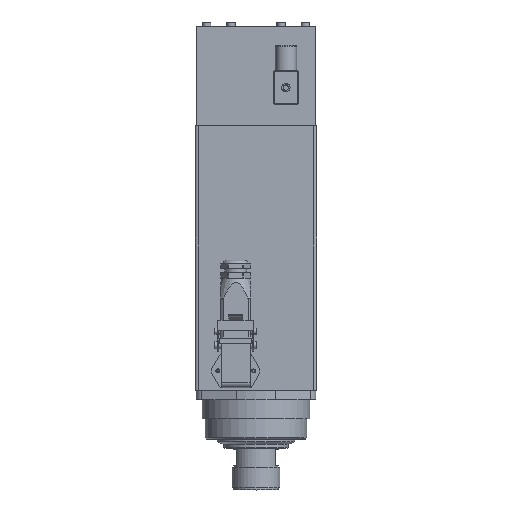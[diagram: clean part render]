
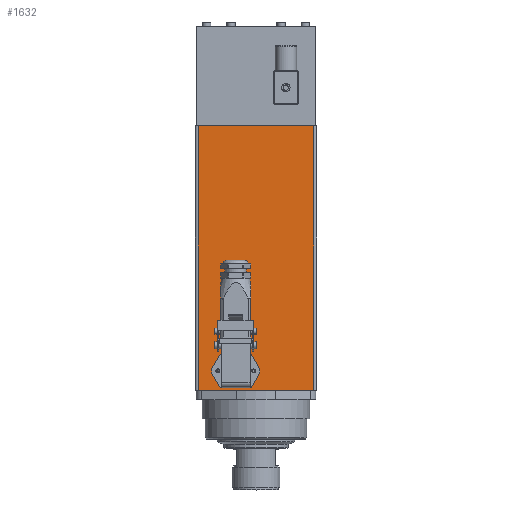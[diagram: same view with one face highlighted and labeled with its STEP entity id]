
A CAD part, top view. The second image highlights one B-rep face of the part: STEP entity #1632.
In plain terms, the highlighted planar face has unit normal (0, 0, 1).
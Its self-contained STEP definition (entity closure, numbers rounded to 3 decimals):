
#1632 = ADVANCED_FACE( '', ( #2717, #2718, #2719, #2720, #2721 ), #2722, .T. );
#2717 = FACE_BOUND( '', #5527, .T. );
#2718 = FACE_BOUND( '', #5528, .T. );
#2719 = FACE_BOUND( '', #5529, .T. );
#2720 = FACE_BOUND( '', #5530, .T. );
#2721 = FACE_OUTER_BOUND( '', #5531, .T. );
#2722 = PLANE( '', #5532 );
#5527 = EDGE_LOOP( '', ( #7487 ) );
#5528 = EDGE_LOOP( '', ( #7488 ) );
#5529 = EDGE_LOOP( '', ( #7489 ) );
#5530 = EDGE_LOOP( '', ( #7490 ) );
#5531 = EDGE_LOOP( '', ( #7491, #7492, #7493, #7494 ) );
#5532 = AXIS2_PLACEMENT_3D( '', #7495, #7496, #7497 );
#7487 = ORIENTED_EDGE( '', *, *, #11782, .T. );
#7488 = ORIENTED_EDGE( '', *, *, #11783, .T. );
#7489 = ORIENTED_EDGE( '', *, *, #11784, .T. );
#7490 = ORIENTED_EDGE( '', *, *, #11764, .F. );
#7491 = ORIENTED_EDGE( '', *, *, #11785, .F. );
#7492 = ORIENTED_EDGE( '', *, *, #11780, .T. );
#7493 = ORIENTED_EDGE( '', *, *, #11652, .F. );
#7494 = ORIENTED_EDGE( '', *, *, #11786, .F. );
#7495 = CARTESIAN_POINT( '', ( 48.5, 1000., 60. ) );
#7496 = DIRECTION( '', ( 0., 0., 1. ) );
#7497 = DIRECTION( '', ( 1., 0., 0. ) );
#11652 = EDGE_CURVE( '', #14086, #14088, #14089, .T. );
#11764 = EDGE_CURVE( '', #14311, #14311, #14312, .T. );
#11780 = EDGE_CURVE( '', #14336, #14088, #14337, .T. );
#11782 = EDGE_CURVE( '', #14339, #14339, #14340, .T. );
#11783 = EDGE_CURVE( '', #14341, #14341, #14342, .T. );
#11784 = EDGE_CURVE( '', #14343, #14343, #14344, .T. );
#11785 = EDGE_CURVE( '', #14336, #14345, #14346, .T. );
#11786 = EDGE_CURVE( '', #14345, #14086, #14347, .T. );
#14086 = VERTEX_POINT( '', #16461 );
#14088 = VERTEX_POINT( '', #16463 );
#14089 = LINE( '', #16464, #16465 );
#14311 = VERTEX_POINT( '', #16834 );
#14312 = CIRCLE( '', #16835, 6. );
#14336 = VERTEX_POINT( '', #16867 );
#14337 = LINE( '', #16868, #16869 );
#14339 = VERTEX_POINT( '', #16871 );
#14340 = CIRCLE( '', #16872, 1.23 );
#14341 = VERTEX_POINT( '', #16873 );
#14342 = CIRCLE( '', #16874, 1.23 );
#14343 = VERTEX_POINT( '', #16875 );
#14344 = CIRCLE( '', #16876, 1.23 );
#14345 = VERTEX_POINT( '', #16877 );
#14346 = LINE( '', #16878, #16879 );
#14347 = LINE( '', #16880, #16881 );
#16461 = CARTESIAN_POINT( '', ( 48.5, 0., 60. ) );
#16463 = CARTESIAN_POINT( '', ( -48.5, 0., 60. ) );
#16464 = CARTESIAN_POINT( '', ( 48.5, 0., 60. ) );
#16465 = VECTOR( '', #19892, 1000. );
#16834 = CARTESIAN_POINT( '', ( -18.5, 26., 60. ) );
#16835 = AXIS2_PLACEMENT_3D( '', #20095, #20096, #20097 );
#16867 = CARTESIAN_POINT( '', ( -48.5, 221., 60. ) );
#16868 = CARTESIAN_POINT( '', ( -48.5, 1000., 60. ) );
#16869 = VECTOR( '', #20121, 1000. );
#16871 = CARTESIAN_POINT( '', ( -32., 14.771, 60. ) );
#16872 = AXIS2_PLACEMENT_3D( '', #20125, #20126, #20127 );
#16873 = CARTESIAN_POINT( '', ( -10., 14.771, 60. ) );
#16874 = AXIS2_PLACEMENT_3D( '', #20128, #20129, #20130 );
#16875 = CARTESIAN_POINT( '', ( -2., 14.771, 60. ) );
#16876 = AXIS2_PLACEMENT_3D( '', #20131, #20132, #20133 );
#16877 = CARTESIAN_POINT( '', ( 48.5, 221., 60. ) );
#16878 = CARTESIAN_POINT( '', ( 48.5, 221., 60. ) );
#16879 = VECTOR( '', #20134, 1000. );
#16880 = CARTESIAN_POINT( '', ( 48.5, 1000., 60. ) );
#16881 = VECTOR( '', #20135, 1000. );
#19892 = DIRECTION( '', ( -1., 0., 0. ) );
#20095 = CARTESIAN_POINT( '', ( -18.5, 20., 60. ) );
#20096 = DIRECTION( '', ( 0., 0., 1. ) );
#20097 = DIRECTION( '', ( 0., 1., 0. ) );
#20121 = DIRECTION( '', ( 0., -1., 0. ) );
#20125 = CARTESIAN_POINT( '', ( -32., 16., 60. ) );
#20126 = DIRECTION( '', ( 0., 0., -1. ) );
#20127 = DIRECTION( '', ( 0., -1., 0. ) );
#20128 = CARTESIAN_POINT( '', ( -10., 16., 60. ) );
#20129 = DIRECTION( '', ( 0., 0., -1. ) );
#20130 = DIRECTION( '', ( 0., -1., 0. ) );
#20131 = CARTESIAN_POINT( '', ( -2., 16., 60. ) );
#20132 = DIRECTION( '', ( 0., 0., -1. ) );
#20133 = DIRECTION( '', ( 0., -1., 0. ) );
#20134 = DIRECTION( '', ( 1., 0., 0. ) );
#20135 = DIRECTION( '', ( 0., -1., 0. ) );
